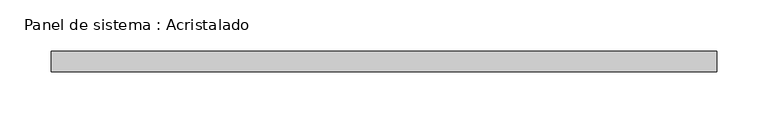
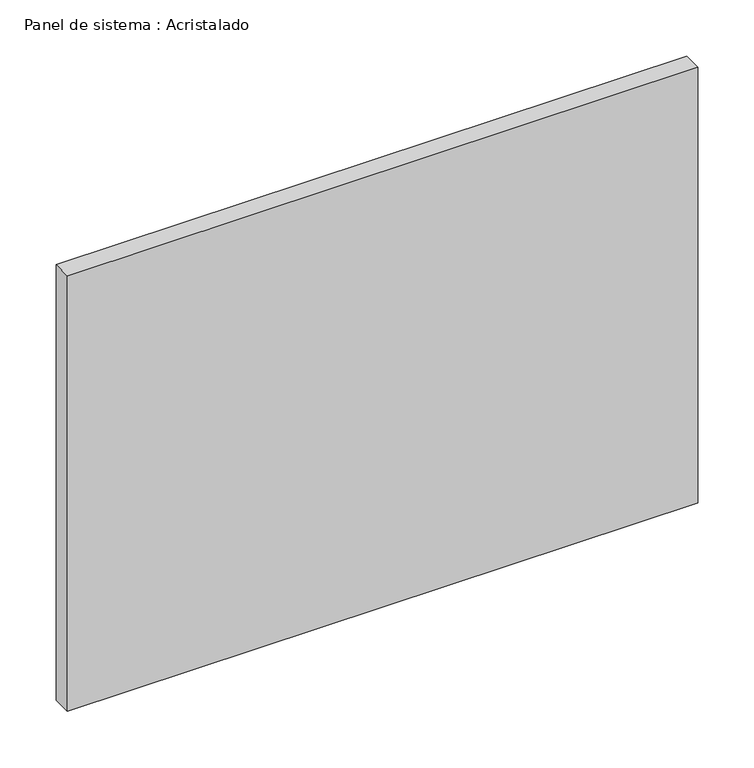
"""IFC4 building model written with IfcOpenShell, lengths in millimetres: plate geometry, Panel de sistema : Acristalado."""

from ifc_helpers import new_model, si_unit, origin, origin_with_axes, place, context, project, spatial, polyline, outline, extrude, source, transform, mapped, element, save


def panel_de_sistema_acristalado_a3c40d10(model_context):
    return source(origin(), model_context, "Body", "SweptSolid", [
        extrude(outline(polyline([(325.0, -10.0), (-325.0, -10.0), (-325.0, 10.0), (325.0, 10.0), (325.0, -10.0)])), origin_with_axes(), (0.0, 0.0, 1.0), 475.0),
    ])


if __name__ == "__main__":
    model = new_model("IFC4")
    model_context = context("Model", 3, world=origin())
    ifc_project = project(units=[si_unit("LENGTHUNIT", "METRE", prefix="MILLI")], contexts=[model_context])
    site = spatial("IfcSite", under=ifc_project)
    building = spatial("IfcBuilding", under=site)
    placement = place(None, origin())
    panel_de_sistema_acristalado_shape = panel_de_sistema_acristalado_a3c40d10(model_context)
    element("IfcPlate", 1, ObjectType="Panel de sistema : Acristalado", at=placement, inside=building, context=model_context, shape_type="MappedRepresentation", body=[
        mapped(panel_de_sistema_acristalado_shape, transform((0.0, 0.0, 0.0), x_axis=(1.0, 0.0, 0.0), y_axis=(0.0, 1.0, 0.0), z_axis=(0.0, 0.0, 1.0))),
    ])
    save(model, "model.ifc")
